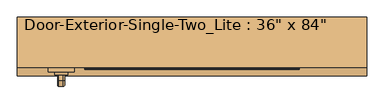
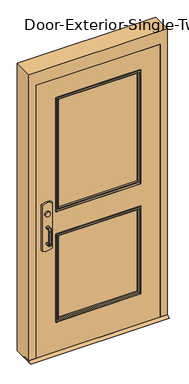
"""IFC4 building model written with IfcOpenShell, lengths in millimetres: door geometry."""

from ifc_helpers import new_model, si_unit, point, frame, frame_2d, origin, place, context, project, spatial, polyline, circle_curve, ellipse_curve, trimmed, segment, composite_curve, outline, extrude, faceted_brep, source, transform, mapped, element, save
from ifc_brep_helpers import plane_surface, cylinder_surface, revolved_surface, advanced_brep


def door_071b1b46(model_context):
    return source(origin(), model_context, "Body", "SolidModel", [
        extrude(outline(polyline([(-28.575, 12.7), (-3.175, 0.0), (-98.425, 0.0), (-73.025, 12.7), (-28.575, 12.7)])), frame((-508.0, 0.0, 0.0), z_axis=(1.0, 0.0, 0.0), x_axis=(0.0, 1.0, 0.0)), (0.0, 0.0, 1.0), 1016.0),
        extrude(outline(polyline([(150.2833333, 9.525), (150.2833333, 3.175), (-349.25, 3.175), (-349.25, 9.525), (150.2833333, 9.525)])), frame((0.0, 0.0, 990.6), z_axis=(0.0, 0.0, 1.0), x_axis=(1.0, 0.0, 0.0)), (0.0, 0.0, 1.0), 50.8),
        advanced_brep(
        [(-412.75, 3.175, 1041.4), (-349.25, 3.175, 1041.4), (400.05, 3.175, 1041.4), (400.05, 3.175, 990.6), (-349.25, 3.175, 990.6), (-412.75, 3.175, 990.6), (400.05, -28.575, 1041.4), (-349.25, -28.575, 1041.4), (-349.25, -28.575, 1104.9), (-368.3, -28.575, 1123.95), (-393.7, -28.575, 1123.95), (-412.75, -28.575, 1104.9), (-412.75, -28.575, 927.1), (-393.7, -28.575, 908.05), (-368.3, -28.575, 908.05), (-349.25, -28.575, 927.1), (-349.25, -28.575, 990.6), (400.05, -28.575, 990.6), (-412.75, -0.0002467, 1041.4), (-349.25, -0.0002467, 1041.4), (-412.75, -0.0002467, 990.6), (-412.75, -5.0104269, 927.1), (-412.75, -5.0104269, 1104.9), (-349.25, -0.0002467, 990.6), (-349.25, -5.0104269, 1104.9), (-349.25, -5.0104269, 927.1), (-368.3, -6.513481, 1123.95), (-393.7, -6.513481, 1123.95), (-393.7, -6.513481, 908.05), (-368.3, -6.513481, 908.05)],
        [
            (0, 1),
            (1, 2),
            (2, 3),
            (3, 4),
            (4, 5),
            (5, 0),
            (6, 7),
            (7, 8),
            (8, 9, circle_curve(frame((-368.3, -28.575, 1104.9), z_axis=(0.0, -1.0, 0.0), x_axis=(1.0, 0.0, 0.0)), 19.05)),
            (9, 10),
            (10, 11, circle_curve(frame((-393.7, -28.575, 1104.9), z_axis=(0.0, -1.0, 0.0), x_axis=(1.0, 0.0, 0.0)), 19.05)),
            (11, 12),
            (12, 13, circle_curve(frame((-393.7, -28.575, 927.1), z_axis=(0.0, -1.0, 0.0), x_axis=(1.0, 0.0, 0.0)), 19.05)),
            (13, 14),
            (14, 15, circle_curve(frame((-368.3, -28.575, 927.1), z_axis=(0.0, -1.0, 0.0), x_axis=(1.0, 0.0, 0.0)), 19.05)),
            (15, 16),
            (16, 17),
            (17, 6),
            (0, 18),
            (18, 19),
            (19, 7),
            (6, 2),
            (5, 20),
            (20, 21),
            (21, 12),
            (11, 22),
            (22, 18),
            (16, 23),
            (23, 20),
            (3, 17),
            (19, 24),
            (24, 8),
            (15, 25),
            (25, 23),
            (9, 26),
            (26, 27),
            (27, 10),
            (13, 28),
            (28, 29),
            (29, 14),
            (29, 25, ellipse_curve(frame((-368.3, -5.0104269, 927.1), z_axis=(0.0, -0.9969018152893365, 0.07865602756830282), x_axis=(0.0, 0.07865602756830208, 0.9969018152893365)), 19.1092038, 19.05)),
            (24, 26, ellipse_curve(frame((-368.3, -5.0104269, 1104.9), z_axis=(0.0, -0.9969018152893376, -0.07865602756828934), x_axis=(0.0, 0.078656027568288, -0.9969018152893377)), 19.1092038, 19.05)),
            (27, 22, ellipse_curve(frame((-393.7, -5.0104269, 1104.9), z_axis=(0.0, -0.9969018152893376, -0.07865602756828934), x_axis=(0.0, 0.078656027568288, -0.9969018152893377)), 19.1092038, 19.05)),
            (21, 28, ellipse_curve(frame((-393.7, -5.0104269, 927.1), z_axis=(0.0, -0.9969018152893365, 0.07865602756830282), x_axis=(0.0, 0.07865602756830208, 0.9969018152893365)), 19.1092038, 19.05)),
        ],
        [
            plane_surface(frame((-412.75, 3.175, 1041.4), z_axis=(0.0, 1.0, 0.0), x_axis=(-1.0, 0.0, 0.0))),
            plane_surface(frame((-412.75, -28.575, 1041.4), z_axis=(0.0, -1.0, 0.0), x_axis=(1.0, 0.0, 0.0))),
            plane_surface(frame((400.05, 3.175, 1041.4), z_axis=(0.0, 0.0, 1.0), x_axis=(0.0, -1.0, 0.0))),
            plane_surface(frame((-412.75, 3.175, 1041.4), z_axis=(-1.0, 0.0, 0.0), x_axis=(0.0, -1.0, 0.0))),
            plane_surface(frame((-412.75, 3.175, 990.6), z_axis=(0.0, 0.0, -1.0), x_axis=(0.0, -1.0, 0.0))),
            plane_surface(frame((400.05, 3.175, 990.6), z_axis=(1.0, 0.0, 0.0), x_axis=(0.0, -1.0, 0.0))),
            plane_surface(frame((-349.25, -0.0002467, 927.1), z_axis=(1.0, 0.0, 0.0), x_axis=(0.0, -1.0, 0.0))),
            plane_surface(frame((-368.3, -0.0002467, 1123.95), z_axis=(0.0, 0.0, 1.0), x_axis=(0.0, -1.0, 0.0))),
            plane_surface(frame((-393.7, -0.0002467, 908.05), z_axis=(0.0, 0.0, -1.0), x_axis=(0.0, -1.0, 0.0))),
            cylinder_surface(frame((-368.3, -28.575, 927.1), z_axis=(0.0, 1.0, 0.0), x_axis=(1.0, 0.0, 0.0)), 19.05),
            cylinder_surface(frame((-368.3, -28.575, 1104.9), z_axis=(0.0, 1.0, 0.0), x_axis=(1.0, 0.0, 0.0)), 19.05),
            cylinder_surface(frame((-393.7, -28.575, 1104.9), z_axis=(0.0, 1.0, 0.0), x_axis=(1.0, 0.0, 0.0)), 19.05),
            cylinder_surface(frame((-393.7, -28.575, 927.1), z_axis=(0.0, 1.0, 0.0), x_axis=(1.0, 0.0, 0.0)), 19.05),
            plane_surface(frame((-349.25, -0.0002467, 1041.4), z_axis=(0.0, 0.9969018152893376, 0.07865602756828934), x_axis=(-1.0, 0.0, 0.0))),
            plane_surface(frame((-349.25, -6.513481, 908.05), z_axis=(0.0, 0.9969018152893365, -0.07865602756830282), x_axis=(-1.0, 0.0, 0.0))),
        ],
        [
            (0, [[1, 2, 3, 4, 5, 6]]),
            (1, [[7, 8, 9, 10, 11, 12, 13, 14, 15, 16, 17, 18]]),
            (2, [[-2, -1, 19, 20, 21, -7, 22]]),
            (3, [[23, 24, 25, -12, 26, 27, -19, -6]]),
            (4, [[-17, 28, 29, -23, -5, -4, 30]]),
            (5, [[-22, -18, -30, -3]]),
            (6, [[-21, 31, 32, -8]]),
            (6, [[33, 34, -28, -16]]),
            (7, [[35, 36, 37, -10]]),
            (8, [[38, 39, 40, -14]]),
            (9, [[-40, 41, -33, -15]]),
            (10, [[-32, 42, -35, -9]]),
            (11, [[-37, 43, -26, -11]]),
            (12, [[-25, 44, -38, -13]]),
            (13, [[-27, -43, -36, -42, -31, -20]]),
            (14, [[-29, -34, -41, -39, -44, -24]]),
        ],
    ),
        advanced_brep(
        [(-391.0, -85.725, 1017.190625), (-387.428125, -85.725, 1020.7625), (-374.571875, -85.725, 1020.7625), (-371.0, -85.725, 1017.190625), (-371.0, -85.725, 1014.8090406), (-374.5715406, -85.725, 1011.2375), (-387.428125, -85.725, 1011.2375), (-391.0, -85.725, 1014.809375), (-391.0, -85.725, 887.809375), (-391.0, -85.725, 890.190625), (-387.428125, -85.725, 893.7625), (-374.5715406, -85.725, 893.7625), (-371.0, -85.725, 890.1909594), (-371.0, -85.725, 887.809375), (-374.571875, -85.725, 884.2375), (-387.428125, -85.725, 884.2375), (-391.0, -111.125, 1014.809375), (-391.0, -122.634375, 1003.3), (-391.0, -122.634375, 901.7), (-391.0, -111.125, 890.190625), (-391.0, -111.125, 887.809375), (-391.0, -125.015625, 901.7), (-391.0, -125.015625, 1003.3), (-391.0, -111.125, 1017.190625), (-387.428125, -111.125, 1011.2375), (-374.5715406, -111.125, 1011.2375), (-371.0, -111.125, 1014.8090406), (-371.0, -111.125, 1017.190625), (-371.0, -125.015625, 1003.3), (-371.0, -125.015625, 901.7), (-371.0, -111.125, 887.809375), (-371.0, -111.125, 890.1909594), (-371.0, -122.6340406, 901.7), (-371.0, -122.6340406, 1003.3), (-374.571875, -111.125, 1020.7625), (-387.428125, -111.125, 1020.7625), (-387.428125, -119.0625, 1003.3), (-374.5715406, -119.0625, 1003.3), (-374.571875, -128.5875, 1003.3), (-387.428125, -128.5875, 1003.3), (-387.428125, -119.0625, 901.7), (-374.5715406, -119.0625, 901.7), (-374.571875, -128.5875, 901.7), (-387.428125, -128.5875, 901.7), (-387.428125, -111.125, 893.7625), (-374.5715406, -111.125, 893.7625), (-374.571875, -111.125, 884.2375), (-387.428125, -111.125, 884.2375)],
        [
            (0, 1, circle_curve(frame((-387.428125, -85.725, 1017.190625), z_axis=(0.0, 1.0, 0.0), x_axis=(0.0, 0.0, 1.0)), 3.571875)),
            (1, 2),
            (2, 3, circle_curve(frame((-374.571875, -85.725, 1017.190625), z_axis=(0.0, 1.0, 0.0), x_axis=(0.0, 0.0, 1.0)), 3.571875)),
            (3, 4),
            (4, 5, circle_curve(frame((-374.5715406, -85.725, 1014.8090406), z_axis=(0.0, 1.0, 0.0), x_axis=(0.0, 0.0, 1.0)), 3.5715406)),
            (5, 6),
            (6, 7, circle_curve(frame((-387.428125, -85.725, 1014.809375), z_axis=(0.0, 1.0, 0.0), x_axis=(0.0, 0.0, 1.0)), 3.571875)),
            (7, 0),
            (8, 9),
            (9, 10, circle_curve(frame((-387.428125, -85.725, 890.190625), z_axis=(0.0, 1.0, 0.0), x_axis=(0.0, 0.0, -1.0)), 3.571875)),
            (10, 11),
            (11, 12, circle_curve(frame((-374.5715406, -85.725, 890.1909594), z_axis=(0.0, 1.0, 0.0), x_axis=(0.0, 0.0, -1.0)), 3.5715406)),
            (12, 13),
            (13, 14, circle_curve(frame((-374.571875, -85.725, 887.809375), z_axis=(0.0, 1.0, 0.0), x_axis=(0.0, 0.0, -1.0)), 3.571875)),
            (14, 15),
            (15, 8, circle_curve(frame((-387.428125, -85.725, 887.809375), z_axis=(0.0, 1.0, 0.0), x_axis=(0.0, 0.0, -1.0)), 3.571875)),
            (7, 16),
            (16, 17, circle_curve(frame((-391.0, -111.125, 1003.3), z_axis=(1.0, 0.0, 0.0), x_axis=(0.0, 0.0, 1.0)), 11.509375)),
            (17, 18),
            (18, 19, circle_curve(frame((-391.0, -111.125, 901.7), z_axis=(1.0, 0.0, 0.0), x_axis=(0.0, -1.0, 0.0)), 11.509375)),
            (19, 9),
            (8, 20),
            (20, 21, circle_curve(frame((-391.0, -111.125, 901.7), z_axis=(-1.0, 0.0, 0.0), x_axis=(0.0, -1.0, 0.0)), 13.890625)),
            (21, 22),
            (22, 23, circle_curve(frame((-391.0, -111.125, 1003.3), z_axis=(-1.0, 0.0, 0.0), x_axis=(0.0, 0.0, 1.0)), 13.890625)),
            (23, 0),
            (6, 24),
            (24, 16, circle_curve(frame((-387.428125, -111.125, 1014.809375), z_axis=(0.0, 1.0, 0.0), x_axis=(0.0, 0.0, 1.0)), 3.571875)),
            (5, 25),
            (25, 24),
            (4, 26),
            (26, 25, circle_curve(frame((-374.5715406, -111.125, 1014.8090406), z_axis=(0.0, 1.0, 0.0), x_axis=(0.0, 0.0, 1.0)), 3.5715406)),
            (3, 27),
            (27, 28, circle_curve(frame((-371.0, -111.125, 1003.3), z_axis=(1.0, 0.0, 0.0), x_axis=(0.0, 0.0, 1.0)), 13.890625)),
            (28, 29),
            (29, 30, circle_curve(frame((-371.0, -111.125, 901.7), z_axis=(1.0, 0.0, 0.0), x_axis=(0.0, -1.0, 0.0)), 13.890625)),
            (30, 13),
            (12, 31),
            (31, 32, circle_curve(frame((-371.0, -111.125, 901.7), z_axis=(-1.0, 0.0, 0.0), x_axis=(0.0, -1.0, 0.0)), 11.5090406)),
            (32, 33),
            (33, 26, circle_curve(frame((-371.0, -111.125, 1003.3), z_axis=(-1.0, 0.0, 0.0), x_axis=(0.0, 0.0, 1.0)), 11.5090406)),
            (2, 34),
            (34, 27, circle_curve(frame((-374.571875, -111.125, 1017.190625), z_axis=(0.0, 1.0, 0.0), x_axis=(0.0, 0.0, 1.0)), 3.571875)),
            (1, 35),
            (35, 34),
            (23, 35, circle_curve(frame((-387.428125, -111.125, 1017.190625), z_axis=(0.0, 1.0, 0.0), x_axis=(0.0, 0.0, 1.0)), 3.571875)),
            (36, 17, circle_curve(frame((-387.428125, -122.634375, 1003.3), z_axis=(0.0, 0.0, 1.0), x_axis=(0.0, -1.0, 0.0)), 3.571875)),
            (24, 36, circle_curve(frame((-387.428125, -111.125, 1003.3), z_axis=(1.0, 0.0, 0.0), x_axis=(0.0, 0.0, 1.0)), 7.9375)),
            (37, 36),
            (25, 37, circle_curve(frame((-374.5715406, -111.125, 1003.3), z_axis=(1.0, 0.0, 0.0), x_axis=(0.0, 0.0, 1.0)), 7.9375)),
            (33, 37, circle_curve(frame((-374.5715406, -122.6340406, 1003.3), z_axis=(0.0, 0.0, 1.0), x_axis=(0.0, -1.0, 0.0)), 3.5715406)),
            (38, 28, circle_curve(frame((-374.571875, -125.015625, 1003.3), z_axis=(0.0, 0.0, 1.0), x_axis=(0.0, -1.0, 0.0)), 3.571875)),
            (34, 38, circle_curve(frame((-374.571875, -111.125, 1003.3), z_axis=(1.0, 0.0, 0.0), x_axis=(0.0, 0.0, 1.0)), 17.4625)),
            (39, 38),
            (35, 39, circle_curve(frame((-387.428125, -111.125, 1003.3), z_axis=(1.0, 0.0, 0.0), x_axis=(0.0, 0.0, 1.0)), 17.4625)),
            (22, 39, circle_curve(frame((-387.428125, -125.015625, 1003.3), z_axis=(0.0, 0.0, 1.0), x_axis=(0.0, -1.0, 0.0)), 3.571875)),
            (36, 40),
            (40, 18, circle_curve(frame((-387.428125, -122.634375, 901.7), z_axis=(0.0, 0.0, 1.0), x_axis=(0.0, -1.0, 0.0)), 3.571875)),
            (37, 41),
            (41, 40),
            (32, 41, circle_curve(frame((-374.5715406, -122.6340406, 901.7), z_axis=(0.0, 0.0, 1.0), x_axis=(0.0, -1.0, 0.0)), 3.5715406)),
            (38, 42),
            (42, 29, circle_curve(frame((-374.571875, -125.015625, 901.7), z_axis=(0.0, 0.0, 1.0), x_axis=(0.0, -1.0, 0.0)), 3.571875)),
            (39, 43),
            (43, 42),
            (21, 43, circle_curve(frame((-387.428125, -125.015625, 901.7), z_axis=(0.0, 0.0, 1.0), x_axis=(0.0, -1.0, 0.0)), 3.571875)),
            (44, 19, circle_curve(frame((-387.428125, -111.125, 890.190625), z_axis=(0.0, -1.0, 0.0), x_axis=(0.0, 0.0, -1.0)), 3.571875)),
            (40, 44, circle_curve(frame((-387.428125, -111.125, 901.7), z_axis=(1.0, 0.0, 0.0), x_axis=(0.0, -1.0, 0.0)), 7.9375)),
            (45, 44),
            (41, 45, circle_curve(frame((-374.5715406, -111.125, 901.7), z_axis=(1.0, 0.0, 0.0), x_axis=(0.0, -1.0, 0.0)), 7.9375)),
            (31, 45, circle_curve(frame((-374.5715406, -111.125, 890.1909594), z_axis=(0.0, -1.0, 0.0), x_axis=(0.0, 0.0, -1.0)), 3.5715406)),
            (46, 30, circle_curve(frame((-374.571875, -111.125, 887.809375), z_axis=(0.0, -1.0, 0.0), x_axis=(0.0, 0.0, -1.0)), 3.571875)),
            (42, 46, circle_curve(frame((-374.571875, -111.125, 901.7), z_axis=(1.0, 0.0, 0.0), x_axis=(0.0, -1.0, 0.0)), 17.4625)),
            (47, 46),
            (43, 47, circle_curve(frame((-387.428125, -111.125, 901.7), z_axis=(1.0, 0.0, 0.0), x_axis=(0.0, -1.0, 0.0)), 17.4625)),
            (20, 47, circle_curve(frame((-387.428125, -111.125, 887.809375), z_axis=(0.0, -1.0, 0.0), x_axis=(0.0, 0.0, -1.0)), 3.571875)),
            (44, 10),
            (45, 11),
            (46, 14),
            (47, 15),
        ],
        [
            plane_surface(frame((-381.0, -85.725, 1016.0), z_axis=(0.0, 1.0, 0.0), x_axis=(1.0, 0.0, 0.0))),
            plane_surface(frame((-381.0, -85.725, 889.0), z_axis=(0.0, 1.0, 0.0), x_axis=(1.0, 0.0, 0.0))),
            plane_surface(frame((-391.0, -85.725, 1017.190625), z_axis=(-1.0, 0.0, 0.0), x_axis=(0.0, -1.0, 0.0))),
            cylinder_surface(frame((-387.428125, -85.725, 1014.809375), z_axis=(0.0, 1.0, 0.0), x_axis=(0.0, 0.0, 1.0)), 3.571875),
            plane_surface(frame((-387.428125, -85.725, 1011.2375), z_axis=(0.0, 0.0, -1.0), x_axis=(0.0, -1.0, 0.0))),
            cylinder_surface(frame((-374.5715406, -85.725, 1014.8090406), z_axis=(0.0, 1.0, 0.0), x_axis=(0.0, 0.0, 1.0)), 3.5715406),
            plane_surface(frame((-371.0, -85.725, 1014.8090406), z_axis=(1.0, 0.0, 0.0), x_axis=(0.0, -1.0, 0.0))),
            cylinder_surface(frame((-374.571875, -85.725, 1017.190625), z_axis=(0.0, 1.0, 0.0), x_axis=(0.0, 0.0, 1.0)), 3.571875),
            plane_surface(frame((-374.571875, -85.725, 1020.7625), z_axis=(0.0, 0.0, 1.0), x_axis=(0.0, -1.0, 0.0))),
            cylinder_surface(frame((-387.428125, -85.725, 1017.190625), z_axis=(0.0, 1.0, 0.0), x_axis=(0.0, 0.0, 1.0)), 3.571875),
            revolved_surface(trimmed(ellipse_curve(frame((-387.428125, -111.125, 1014.809375), z_axis=(0.0, -1.0, 0.0), x_axis=(0.0, 0.0, 1.0)), 3.571875, 3.571875), [point((-391.0, -111.125, 1014.809375))], [point((-387.428125, -111.125, 1011.2375))], True, "CARTESIAN"), (-381.0, -111.125, 1003.3), (-1.0, 0.0, 0.0)),
            revolved_surface(polyline([(-387.428125, -111.125, 1011.2375), (-374.5715406, -111.125, 1011.2375)]), (-381.0, -111.125, 1003.3), (-1.0, 0.0, 0.0)),
            revolved_surface(trimmed(ellipse_curve(frame((-374.5715406, -111.125, 1014.8090406), z_axis=(0.0, -1.0, 0.0), x_axis=(0.0, 0.0, 1.0)), 3.5715406, 3.5715406), [point((-374.5715406, -111.125, 1011.2375))], [point((-371.0, -111.125, 1014.8090406))], True, "CARTESIAN"), (-381.0, -111.125, 1003.3), (-1.0, 0.0, 0.0)),
            revolved_surface(trimmed(ellipse_curve(frame((-374.571875, -111.125, 1017.190625), z_axis=(0.0, -1.0, 0.0), x_axis=(0.0, 0.0, 1.0)), 3.571875, 3.571875), [point((-371.0, -111.125, 1017.190625))], [point((-374.571875, -111.125, 1020.7625))], True, "CARTESIAN"), (-381.0, -111.125, 1003.3), (-1.0, 0.0, 0.0)),
            cylinder_surface(frame((-381.0, -111.125, 1003.3), z_axis=(-1.0, 0.0, 0.0), x_axis=(0.0, 0.0, 1.0)), 17.4625),
            revolved_surface(trimmed(ellipse_curve(frame((-387.428125, -111.125, 1017.190625), z_axis=(0.0, -1.0, 0.0), x_axis=(0.0, 0.0, 1.0)), 3.571875, 3.571875), [point((-387.428125, -111.125, 1020.7625))], [point((-391.0, -111.125, 1017.190625))], True, "CARTESIAN"), (-381.0, -111.125, 1003.3), (-1.0, 0.0, 0.0)),
            cylinder_surface(frame((-387.428125, -122.634375, 1003.3), z_axis=(0.0, 0.0, 1.0), x_axis=(0.0, -1.0, 0.0)), 3.571875),
            plane_surface(frame((-387.428125, -119.0625, 1003.3), z_axis=(0.0, 1.0, 0.0), x_axis=(0.0, 0.0, -1.0))),
            cylinder_surface(frame((-374.5715406, -122.6340406, 1003.3), z_axis=(0.0, 0.0, 1.0), x_axis=(0.0, -1.0, 0.0)), 3.5715406),
            cylinder_surface(frame((-374.571875, -125.015625, 1003.3), z_axis=(0.0, 0.0, 1.0), x_axis=(0.0, -1.0, 0.0)), 3.571875),
            plane_surface(frame((-374.571875, -128.5875, 1003.3), z_axis=(0.0, -1.0, 0.0), x_axis=(0.0, 0.0, -1.0))),
            cylinder_surface(frame((-387.428125, -125.015625, 1003.3), z_axis=(0.0, 0.0, 1.0), x_axis=(0.0, -1.0, 0.0)), 3.571875),
            revolved_surface(trimmed(ellipse_curve(frame((-387.428125, -122.634375, 901.7), z_axis=(0.0, 0.0, -1.0), x_axis=(0.0, -1.0, 0.0)), 3.571875, 3.571875), [point((-391.0, -122.634375, 901.7))], [point((-387.428125, -119.0625, 901.7))], True, "CARTESIAN"), (-381.0, -111.125, 901.7), (-1.0, 0.0, 0.0)),
            revolved_surface(polyline([(-387.428125, -119.0625, 901.7), (-374.5715406, -119.0625, 901.7)]), (-381.0, -111.125, 901.7), (-1.0, 0.0, 0.0)),
            revolved_surface(trimmed(ellipse_curve(frame((-374.5715406, -122.6340406, 901.7), z_axis=(0.0, 0.0, -1.0), x_axis=(0.0, -1.0, 0.0)), 3.5715406, 3.5715406), [point((-374.5715406, -119.0625, 901.7))], [point((-371.0, -122.6340406, 901.7))], True, "CARTESIAN"), (-381.0, -111.125, 901.7), (-1.0, 0.0, 0.0)),
            revolved_surface(trimmed(ellipse_curve(frame((-374.571875, -125.015625, 901.7), z_axis=(0.0, 0.0, -1.0), x_axis=(0.0, -1.0, 0.0)), 3.571875, 3.571875), [point((-371.0, -125.015625, 901.7))], [point((-374.571875, -128.5875, 901.7))], True, "CARTESIAN"), (-381.0, -111.125, 901.7), (-1.0, 0.0, 0.0)),
            cylinder_surface(frame((-381.0, -111.125, 901.7), z_axis=(-1.0, 0.0, 0.0), x_axis=(0.0, -1.0, 0.0)), 17.4625),
            revolved_surface(trimmed(ellipse_curve(frame((-387.428125, -125.015625, 901.7), z_axis=(0.0, 0.0, -1.0), x_axis=(0.0, -1.0, 0.0)), 3.571875, 3.571875), [point((-387.428125, -128.5875, 901.7))], [point((-391.0, -125.015625, 901.7))], True, "CARTESIAN"), (-381.0, -111.125, 901.7), (-1.0, 0.0, 0.0)),
            cylinder_surface(frame((-387.428125, -111.125, 890.190625), z_axis=(0.0, -1.0, 0.0), x_axis=(0.0, 0.0, -1.0)), 3.571875),
            plane_surface(frame((-387.428125, -111.125, 893.7625), z_axis=(0.0, 0.0, 1.0), x_axis=(0.0, 1.0, 0.0))),
            cylinder_surface(frame((-374.5715406, -111.125, 890.1909594), z_axis=(0.0, -1.0, 0.0), x_axis=(0.0, 0.0, -1.0)), 3.5715406),
            cylinder_surface(frame((-374.571875, -111.125, 887.809375), z_axis=(0.0, -1.0, 0.0), x_axis=(0.0, 0.0, -1.0)), 3.571875),
            plane_surface(frame((-374.571875, -111.125, 884.2375), z_axis=(0.0, 0.0, -1.0), x_axis=(0.0, 1.0, 0.0))),
            cylinder_surface(frame((-387.428125, -111.125, 887.809375), z_axis=(0.0, -1.0, 0.0), x_axis=(0.0, 0.0, -1.0)), 3.571875),
        ],
        [
            (0, [[1, 2, 3, 4, 5, 6, 7, 8]]),
            (1, [[9, 10, 11, 12, 13, 14, 15, 16]]),
            (2, [[17, 18, 19, 20, 21, -9, 22, 23, 24, 25, 26, -8]]),
            (3, [[27, 28, -17, -7]]),
            (4, [[29, 30, -27, -6]]),
            (5, [[31, 32, -29, -5]]),
            (6, [[33, 34, 35, 36, 37, -13, 38, 39, 40, 41, -31, -4]]),
            (7, [[42, 43, -33, -3]]),
            (8, [[44, 45, -42, -2]]),
            (9, [[-26, 46, -44, -1]]),
            (10, [[47, -18, -28, 48]]),
            (11, [[49, -48, -30, 50]]),
            (12, [[51, -50, -32, -41]]),
            (13, [[52, -34, -43, 53]]),
            (14, [[54, -53, -45, 55]]),
            (15, [[56, -55, -46, -25]]),
            (16, [[57, 58, -19, -47]]),
            (17, [[59, 60, -57, -49]]),
            (18, [[-40, 61, -59, -51]]),
            (19, [[62, 63, -35, -52]]),
            (20, [[64, 65, -62, -54]]),
            (21, [[-24, 66, -64, -56]]),
            (22, [[67, -20, -58, 68]]),
            (23, [[69, -68, -60, 70]]),
            (24, [[71, -70, -61, -39]]),
            (25, [[72, -36, -63, 73]]),
            (26, [[74, -73, -65, 75]]),
            (27, [[76, -75, -66, -23]]),
            (28, [[77, -10, -21, -67]]),
            (29, [[78, -11, -77, -69]]),
            (30, [[-38, -12, -78, -71]]),
            (31, [[79, -14, -37, -72]]),
            (32, [[80, -15, -79, -74]]),
            (33, [[-22, -16, -80, -76]]),
        ],
    ),
        extrude(outline(composite_curve([segment(trimmed(circle_curve(frame_2d((1117.6, -381.0)), 19.0), [point((1117.6, -400.0))], [point((1117.6, -362.0))], False, "CARTESIAN"), True, "CONTINUOUS"), segment(trimmed(circle_curve(frame_2d((1117.6, -381.0)), 19.0), [point((1117.6, -362.0))], [point((1117.6, -400.0))], False, "CARTESIAN"), True, "CONTINUOUS")], self_intersect=False)), frame((0.0, -94.45625, 0.0), z_axis=(0.0, 1.0, 0.0), x_axis=(0.0, 0.0, 1.0)), (0.0, 0.0, 1.0), 8.73125),
        extrude(outline(composite_curve([segment(trimmed(circle_curve(frame_2d((1113.0338574, -381.0)), 89.3016225), [point((1193.8, -342.9))], [point((1193.8, -419.1))], False, "CARTESIAN"), True, "CONTINUOUS"), segment(polyline([(1193.8, -419.1), (838.2, -419.1)]), True, "CONTINUOUS"), segment(trimmed(circle_curve(frame_2d((918.9661426, -381.0)), 89.3016225), [point((838.2, -419.1))], [point((838.2, -342.9))], False, "CARTESIAN"), True, "CONTINUOUS"), segment(polyline([(838.2, -342.9), (1193.8, -342.9)]), True, "CONTINUOUS")], self_intersect=False)), frame((0.0, -85.725, 0.0), z_axis=(0.0, 1.0, 0.0), x_axis=(0.0, 0.0, 1.0)), (0.0, 0.0, 1.0), 12.7),
        faceted_brep([(457.2, -23.8125, 0.0), (441.325, -23.8125, 0.0), (441.325, 23.8125, 0.0), (457.2, 23.8125, 0.0), (457.2, 73.025, 0.0), (508.0, 73.025, 0.0), (508.0, -73.025, 0.0), (457.2, -73.025, 0.0), (457.2, -73.025, 2133.6), (457.2, -23.8125, 2133.6), (508.0, -73.025, 2235.2), (-508.0, -73.025, 2235.2), (-508.0, -73.025, 0.0), (-457.2, -73.025, 0.0), (-457.2, -73.025, 2133.6), (508.0, 73.025, 2235.2), (457.2, 73.025, 2133.6), (-457.2, 73.025, 2133.6), (-457.2, 73.025, 0.0), (-508.0, 73.025, 0.0), (-508.0, 73.025, 2235.2), (457.2, 23.8125, 2133.6), (441.325, 23.8125, 2117.725), (-441.325, 23.8125, 2117.725), (-441.325, 23.8125, 0.0), (-457.2, 23.8125, 0.0), (-457.2, 23.8125, 2133.6), (441.325, -23.8125, 2117.725), (-457.2, -23.8125, 2133.6), (-457.2, -23.8125, 0.0), (-441.325, -23.8125, 0.0), (-441.325, -23.8125, 2117.725)], [[[0, 1, 2, 3, 4, 5, 6, 7]], [[7, 8, 9, 0]], [[6, 10, 11, 12, 13, 14, 8, 7]], [[5, 15, 10, 6]], [[4, 16, 17, 18, 19, 20, 15, 5]], [[3, 21, 16, 4]], [[2, 22, 23, 24, 25, 26, 21, 3]], [[1, 27, 22, 2]], [[0, 9, 28, 29, 30, 31, 27, 1]], [[8, 14, 28, 9]], [[16, 21, 26, 17]], [[22, 27, 31, 23]], [[12, 19, 18, 25, 24, 30, 29, 13]], [[13, 29, 28, 14]], [[11, 20, 19, 12]], [[17, 26, 25, 18]], [[23, 31, 30, 24]], [[15, 20, 11, 10]]]),
        extrude(outline(polyline([(2133.6, -457.2), (12.7, -457.2), (12.7, 457.2), (2133.6, 457.2), (2133.6, -457.2)]), holes=[polyline([(1981.2, -304.8), (1981.2, 304.8), (1111.25, 304.8), (1111.25, -304.8), (1981.2, -304.8)]), polyline([(920.75, -304.8), (920.75, 304.8), (254.0, 304.8), (254.0, -304.8), (920.75, -304.8)])]), frame((0.0, -73.025, 0.0), z_axis=(0.0, 1.0, 0.0), x_axis=(0.0, 0.0, 1.0)), (0.0, 0.0, 1.0), 44.45),
        extrude(outline(polyline([(304.8, -41.275), (304.8, -60.325), (-304.8, -60.325), (-304.8, -41.275), (304.8, -41.275)])), frame((0.0, 0.0, 1111.25), z_axis=(0.0, 0.0, 1.0), x_axis=(1.0, 0.0, 0.0)), (0.0, 0.0, 1.0), 869.95),
        extrude(outline(polyline([(304.8, -41.275), (304.8, -60.325), (-304.8, -60.325), (-304.8, -41.275), (304.8, -41.275)])), frame((0.0, 0.0, 254.0), z_axis=(0.0, 0.0, 1.0), x_axis=(1.0, 0.0, 0.0)), (0.0, 0.0, 1.0), 666.75),
        advanced_brep(
        [(304.8, -41.275, 920.75), (304.8, -41.275, 254.0), (304.8, -28.575, 254.0), (304.8, -28.575, 920.75), (292.8, -27.575, 908.75), (292.8, -27.575, 266.0), (292.8, -41.275, 266.0), (292.8, -41.275, 908.75), (297.8, -22.575, 913.75), (297.8, -22.575, 261.0), (312.8, -24.575, 928.75), (312.8, -24.575, 246.0), (310.8, -22.575, 248.0), (310.8, -22.575, 926.75), (312.8, -28.575, 928.75), (312.8, -28.575, 246.0), (-304.8, -41.275, 254.0), (-304.8, -28.575, 254.0), (-292.8, -27.575, 266.0), (-292.8, -41.275, 266.0), (-297.8, -22.575, 261.0), (-312.8, -24.575, 246.0), (-310.8, -22.575, 248.0), (-312.8, -28.575, 246.0), (-304.8, -41.275, 920.75), (-304.8, -28.575, 920.75), (-292.8, -27.575, 908.75), (-292.8, -41.275, 908.75), (-297.8, -22.575, 913.75), (-312.8, -24.575, 928.75), (-310.8, -22.575, 926.75), (-312.8, -28.575, 928.75)],
        [
            (0, 1),
            (1, 2),
            (2, 3),
            (3, 0),
            (4, 5),
            (5, 6),
            (6, 7),
            (7, 4),
            (8, 9),
            (9, 5, ellipse_curve(frame((297.8, -27.575, 261.0), z_axis=(0.7071067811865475, 0.0, 0.7071067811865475), x_axis=(-0.7071067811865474, 0.0, 0.7071067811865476)), 7.0710678, 5.0)),
            (4, 8, ellipse_curve(frame((297.8, -27.575, 913.75), z_axis=(0.7071067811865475, 0.0, -0.7071067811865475), x_axis=(0.7071067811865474, 0.0, 0.7071067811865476)), 7.0710678, 5.0)),
            (10, 11),
            (11, 12, ellipse_curve(frame((310.8, -24.575, 248.0), z_axis=(0.7071067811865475, 0.0, 0.7071067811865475), x_axis=(-0.7071067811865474, 0.0, 0.7071067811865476)), 2.8284271, 2.0)),
            (12, 13),
            (13, 10, ellipse_curve(frame((310.8, -24.575, 926.75), z_axis=(0.7071067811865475, 0.0, -0.7071067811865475), x_axis=(0.7071067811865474, 0.0, 0.7071067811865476)), 2.8284271, 2.0)),
            (14, 15),
            (15, 11),
            (10, 14),
            (1, 16),
            (16, 17),
            (17, 2),
            (5, 18),
            (18, 19),
            (19, 6),
            (9, 20),
            (20, 18, ellipse_curve(frame((-297.8, -27.575, 261.0), z_axis=(0.7071067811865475, 0.0, -0.7071067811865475), x_axis=(0.7071067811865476, 0.0, 0.7071067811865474)), 7.0710678, 5.0)),
            (11, 21),
            (21, 22, ellipse_curve(frame((-310.8, -24.575, 248.0), z_axis=(0.7071067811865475, 0.0, -0.7071067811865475), x_axis=(0.7071067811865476, 0.0, 0.7071067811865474)), 2.8284271, 2.0)),
            (22, 12),
            (15, 23),
            (23, 21),
            (16, 24),
            (24, 25),
            (25, 17),
            (18, 26),
            (26, 27),
            (27, 19),
            (20, 28),
            (28, 26, ellipse_curve(frame((-297.8, -27.575, 913.75), z_axis=(-0.7071067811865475, 0.0, -0.7071067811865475), x_axis=(0.7071067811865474, 0.0, -0.7071067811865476)), 7.0710678, 5.0)),
            (21, 29),
            (29, 30, ellipse_curve(frame((-310.8, -24.575, 926.75), z_axis=(-0.7071067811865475, 0.0, -0.7071067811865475), x_axis=(0.7071067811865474, 0.0, -0.7071067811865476)), 2.8284271, 2.0)),
            (30, 22),
            (23, 31),
            (31, 29),
            (14, 31),
            (25, 3),
            (24, 0),
            (27, 7),
            (26, 4),
            (28, 8),
            (30, 13),
            (29, 10),
        ],
        [
            plane_surface(frame((304.8, -28.575, 920.75), z_axis=(1.0, 0.0, 0.0), x_axis=(0.0, 0.0, -1.0))),
            plane_surface(frame((292.8, -41.275, 908.75), z_axis=(-1.0, 0.0, 0.0), x_axis=(0.0, 0.0, -1.0))),
            cylinder_surface(frame((297.8, -27.575, 920.75), z_axis=(0.0, 0.0, 1.0), x_axis=(1.0, 0.0, 0.0)), 5.0),
            cylinder_surface(frame((310.8, -24.575, 920.75), z_axis=(0.0, 0.0, 1.0), x_axis=(1.0, 0.0, 0.0)), 2.0),
            plane_surface(frame((312.8, -24.575, 928.75), z_axis=(1.0, 0.0, 0.0), x_axis=(0.0, 0.0, -1.0))),
            plane_surface(frame((304.8, -28.575, 254.0), z_axis=(0.0, 0.0, -1.0), x_axis=(-1.0, 0.0, 0.0))),
            plane_surface(frame((292.8, -41.275, 266.0), z_axis=(0.0, 0.0, 1.0), x_axis=(-1.0, 0.0, 0.0))),
            cylinder_surface(frame((304.8, -27.575, 261.0), z_axis=(1.0, 0.0, 0.0), x_axis=(0.0, 0.0, -1.0)), 5.0),
            cylinder_surface(frame((304.8, -24.575, 248.0), z_axis=(1.0, 0.0, 0.0), x_axis=(0.0, 0.0, -1.0)), 2.0),
            plane_surface(frame((312.8, -24.575, 246.0), z_axis=(0.0, 0.0, -1.0), x_axis=(-1.0, 0.0, 0.0))),
            plane_surface(frame((-304.8, -28.575, 254.0), z_axis=(-1.0, 0.0, 0.0), x_axis=(0.0, 0.0, 1.0))),
            plane_surface(frame((-292.8, -41.275, 266.0), z_axis=(1.0, 0.0, 0.0), x_axis=(0.0, 0.0, 1.0))),
            cylinder_surface(frame((-297.8, -27.575, 254.0), z_axis=(0.0, 0.0, -1.0), x_axis=(-1.0, 0.0, 0.0)), 5.0),
            cylinder_surface(frame((-310.8, -24.575, 254.0), z_axis=(0.0, 0.0, -1.0), x_axis=(-1.0, 0.0, 0.0)), 2.0),
            plane_surface(frame((-312.8, -24.575, 246.0), z_axis=(-1.0, 0.0, 0.0), x_axis=(0.0, 0.0, 1.0))),
            plane_surface(frame((-312.8, -28.575, 928.75), z_axis=(0.0, -1.0, 0.0), x_axis=(1.0, 0.0, 0.0))),
            plane_surface(frame((-304.8, -28.575, 920.75), z_axis=(0.0, 0.0, 1.0), x_axis=(1.0, 0.0, 0.0))),
            plane_surface(frame((-304.8, -41.275, 920.75), z_axis=(0.0, -1.0, 0.0), x_axis=(1.0, 0.0, 0.0))),
            plane_surface(frame((-292.8, -41.275, 908.75), z_axis=(0.0, 0.0, -1.0), x_axis=(1.0, 0.0, 0.0))),
            cylinder_surface(frame((-304.8, -27.575, 913.75), z_axis=(-1.0, 0.0, 0.0), x_axis=(0.0, 0.0, 1.0)), 5.0),
            plane_surface(frame((-297.8, -22.575, 913.75), z_axis=(0.0, 1.0, 0.0), x_axis=(1.0, 0.0, 0.0))),
            cylinder_surface(frame((-304.8, -24.575, 926.75), z_axis=(-1.0, 0.0, 0.0), x_axis=(0.0, 0.0, 1.0)), 2.0),
            plane_surface(frame((-312.8, -24.575, 928.75), z_axis=(0.0, 0.0, 1.0), x_axis=(1.0, 0.0, 0.0))),
        ],
        [
            (0, [[1, 2, 3, 4]]),
            (1, [[5, 6, 7, 8]]),
            (2, [[9, 10, -5, 11]]),
            (3, [[12, 13, 14, 15]]),
            (4, [[16, 17, -12, 18]]),
            (5, [[19, 20, 21, -2]]),
            (6, [[22, 23, 24, -6]]),
            (7, [[25, 26, -22, -10]]),
            (8, [[27, 28, 29, -13]]),
            (9, [[30, 31, -27, -17]]),
            (10, [[32, 33, 34, -20]]),
            (11, [[35, 36, 37, -23]]),
            (12, [[38, 39, -35, -26]]),
            (13, [[40, 41, 42, -28]]),
            (14, [[43, 44, -40, -31]]),
            (15, [[-16, 45, -43, -30], [-3, -21, -34, 46]]),
            (16, [[47, -4, -46, -33]]),
            (17, [[-1, -47, -32, -19], [-7, -24, -37, 48]]),
            (18, [[49, -8, -48, -36]]),
            (19, [[50, -11, -49, -39]]),
            (20, [[-14, -29, -42, 51], [-9, -50, -38, -25]]),
            (21, [[52, -15, -51, -41]]),
            (22, [[-45, -18, -52, -44]]),
        ],
    ),
        advanced_brep(
        [(-304.8, -60.325, 920.75), (-304.8, -60.325, 254.0), (-304.8, -73.025, 254.0), (-304.8, -73.025, 920.75), (-292.8, -74.025, 908.75), (-292.8, -74.025, 266.0), (-292.8, -60.325, 266.0), (-292.8, -60.325, 908.75), (-297.8, -79.025, 913.75), (-297.8, -79.025, 261.0), (-312.8, -77.025, 928.75), (-312.8, -77.025, 246.0), (-310.8, -79.025, 248.0), (-310.8, -79.025, 926.75), (-312.8, -73.025, 928.75), (-312.8, -73.025, 246.0), (304.8, -60.325, 254.0), (304.8, -73.025, 254.0), (292.8, -74.025, 266.0), (292.8, -60.325, 266.0), (297.8, -79.025, 261.0), (312.8, -77.025, 246.0), (310.8, -79.025, 248.0), (312.8, -73.025, 246.0), (304.8, -60.325, 920.75), (304.8, -73.025, 920.75), (292.8, -74.025, 908.75), (292.8, -60.325, 908.75), (297.8, -79.025, 913.75), (312.8, -77.025, 928.75), (310.8, -79.025, 926.75), (312.8, -73.025, 928.75)],
        [
            (0, 1),
            (1, 2),
            (2, 3),
            (3, 0),
            (4, 5),
            (5, 6),
            (6, 7),
            (7, 4),
            (8, 9),
            (9, 5, ellipse_curve(frame((-297.8, -74.025, 261.0), z_axis=(-0.7071067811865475, 0.0, 0.7071067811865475), x_axis=(0.7071067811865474, 0.0, 0.7071067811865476)), 7.0710678, 5.0)),
            (4, 8, ellipse_curve(frame((-297.8, -74.025, 913.75), z_axis=(-0.7071067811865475, 0.0, -0.7071067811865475), x_axis=(-0.7071067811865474, 0.0, 0.7071067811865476)), 7.0710678, 5.0)),
            (10, 11),
            (11, 12, ellipse_curve(frame((-310.8, -77.025, 248.0), z_axis=(-0.7071067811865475, 0.0, 0.7071067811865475), x_axis=(0.7071067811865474, 0.0, 0.7071067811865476)), 2.8284271, 2.0)),
            (12, 13),
            (13, 10, ellipse_curve(frame((-310.8, -77.025, 926.75), z_axis=(-0.7071067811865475, 0.0, -0.7071067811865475), x_axis=(-0.7071067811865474, 0.0, 0.7071067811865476)), 2.8284271, 2.0)),
            (14, 15),
            (15, 11),
            (10, 14),
            (1, 16),
            (16, 17),
            (17, 2),
            (5, 18),
            (18, 19),
            (19, 6),
            (9, 20),
            (20, 18, ellipse_curve(frame((297.8, -74.025, 261.0), z_axis=(-0.7071067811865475, 0.0, -0.7071067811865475), x_axis=(-0.7071067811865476, 0.0, 0.7071067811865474)), 7.0710678, 5.0)),
            (11, 21),
            (21, 22, ellipse_curve(frame((310.8, -77.025, 248.0), z_axis=(-0.7071067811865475, 0.0, -0.7071067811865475), x_axis=(-0.7071067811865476, 0.0, 0.7071067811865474)), 2.8284271, 2.0)),
            (22, 12),
            (15, 23),
            (23, 21),
            (16, 24),
            (24, 25),
            (25, 17),
            (18, 26),
            (26, 27),
            (27, 19),
            (20, 28),
            (28, 26, ellipse_curve(frame((297.8, -74.025, 913.75), z_axis=(0.7071067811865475, 0.0, -0.7071067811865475), x_axis=(-0.7071067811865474, 0.0, -0.7071067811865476)), 7.0710678, 5.0)),
            (21, 29),
            (29, 30, ellipse_curve(frame((310.8, -77.025, 926.75), z_axis=(0.7071067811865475, 0.0, -0.7071067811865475), x_axis=(-0.7071067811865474, 0.0, -0.7071067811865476)), 2.8284271, 2.0)),
            (30, 22),
            (23, 31),
            (31, 29),
            (14, 31),
            (25, 3),
            (24, 0),
            (27, 7),
            (26, 4),
            (28, 8),
            (30, 13),
            (29, 10),
        ],
        [
            plane_surface(frame((-304.8, -73.025, 920.75), z_axis=(-1.0, 0.0, 0.0), x_axis=(0.0, 0.0, -1.0))),
            plane_surface(frame((-292.8, -60.325, 908.75), z_axis=(1.0, 0.0, 0.0), x_axis=(0.0, 0.0, -1.0))),
            cylinder_surface(frame((-297.8, -74.025, 920.75), z_axis=(0.0, 0.0, 1.0), x_axis=(-1.0, 0.0, 0.0)), 5.0),
            cylinder_surface(frame((-310.8, -77.025, 920.75), z_axis=(0.0, 0.0, 1.0), x_axis=(-1.0, 0.0, 0.0)), 2.0),
            plane_surface(frame((-312.8, -77.025, 928.75), z_axis=(-1.0, 0.0, 0.0), x_axis=(0.0, 0.0, -1.0))),
            plane_surface(frame((-304.8, -73.025, 254.0), z_axis=(0.0, 0.0, -1.0), x_axis=(1.0, 0.0, 0.0))),
            plane_surface(frame((-292.8, -60.325, 266.0), z_axis=(0.0, 0.0, 1.0), x_axis=(1.0, 0.0, 0.0))),
            cylinder_surface(frame((-304.8, -74.025, 261.0), z_axis=(-1.0, 0.0, 0.0), x_axis=(0.0, 0.0, -1.0)), 5.0),
            cylinder_surface(frame((-304.8, -77.025, 248.0), z_axis=(-1.0, 0.0, 0.0), x_axis=(0.0, 0.0, -1.0)), 2.0),
            plane_surface(frame((-312.8, -77.025, 246.0), z_axis=(0.0, 0.0, -1.0), x_axis=(1.0, 0.0, 0.0))),
            plane_surface(frame((304.8, -73.025, 254.0), z_axis=(1.0, 0.0, 0.0), x_axis=(0.0, 0.0, 1.0))),
            plane_surface(frame((292.8, -60.325, 266.0), z_axis=(-1.0, 0.0, 0.0), x_axis=(0.0, 0.0, 1.0))),
            cylinder_surface(frame((297.8, -74.025, 254.0), z_axis=(0.0, 0.0, -1.0), x_axis=(1.0, 0.0, 0.0)), 5.0),
            cylinder_surface(frame((310.8, -77.025, 254.0), z_axis=(0.0, 0.0, -1.0), x_axis=(1.0, 0.0, 0.0)), 2.0),
            plane_surface(frame((312.8, -77.025, 246.0), z_axis=(1.0, 0.0, 0.0), x_axis=(0.0, 0.0, 1.0))),
            plane_surface(frame((312.8, -73.025, 928.75), z_axis=(0.0, 1.0, 0.0), x_axis=(-1.0, 0.0, 0.0))),
            plane_surface(frame((304.8, -73.025, 920.75), z_axis=(0.0, 0.0, 1.0), x_axis=(-1.0, 0.0, 0.0))),
            plane_surface(frame((304.8, -60.325, 920.75), z_axis=(0.0, 1.0, 0.0), x_axis=(-1.0, 0.0, 0.0))),
            plane_surface(frame((292.8, -60.325, 908.75), z_axis=(0.0, 0.0, -1.0), x_axis=(-1.0, 0.0, 0.0))),
            cylinder_surface(frame((304.8, -74.025, 913.75), z_axis=(1.0, 0.0, 0.0), x_axis=(0.0, 0.0, 1.0)), 5.0),
            plane_surface(frame((297.8, -79.025, 913.75), z_axis=(0.0, -1.0, 0.0), x_axis=(-1.0, 0.0, 0.0))),
            cylinder_surface(frame((304.8, -77.025, 926.75), z_axis=(1.0, 0.0, 0.0), x_axis=(0.0, 0.0, 1.0)), 2.0),
            plane_surface(frame((312.8, -77.025, 928.75), z_axis=(0.0, 0.0, 1.0), x_axis=(-1.0, 0.0, 0.0))),
        ],
        [
            (0, [[1, 2, 3, 4]]),
            (1, [[5, 6, 7, 8]]),
            (2, [[9, 10, -5, 11]]),
            (3, [[12, 13, 14, 15]]),
            (4, [[16, 17, -12, 18]]),
            (5, [[19, 20, 21, -2]]),
            (6, [[22, 23, 24, -6]]),
            (7, [[25, 26, -22, -10]]),
            (8, [[27, 28, 29, -13]]),
            (9, [[30, 31, -27, -17]]),
            (10, [[32, 33, 34, -20]]),
            (11, [[35, 36, 37, -23]]),
            (12, [[38, 39, -35, -26]]),
            (13, [[40, 41, 42, -28]]),
            (14, [[43, 44, -40, -31]]),
            (15, [[-16, 45, -43, -30], [-3, -21, -34, 46]]),
            (16, [[47, -4, -46, -33]]),
            (17, [[-1, -47, -32, -19], [-7, -24, -37, 48]]),
            (18, [[49, -8, -48, -36]]),
            (19, [[50, -11, -49, -39]]),
            (20, [[-14, -29, -42, 51], [-9, -50, -38, -25]]),
            (21, [[52, -15, -51, -41]]),
            (22, [[-45, -18, -52, -44]]),
        ],
    ),
        advanced_brep(
        [(-304.8, -41.275, 1111.25), (-304.8, -41.275, 1981.2), (-304.8, -28.575, 1981.2), (-304.8, -28.575, 1111.25), (-292.8, -27.575, 1123.25), (-292.8, -27.575, 1969.2), (-292.8, -41.275, 1969.2), (-292.8, -41.275, 1123.25), (-297.8, -22.575, 1118.25), (-297.8, -22.575, 1974.2), (-312.8, -24.575, 1103.25), (-312.8, -24.575, 1989.2), (-310.8, -22.575, 1987.2), (-310.8, -22.575, 1105.25), (-312.8, -28.575, 1103.25), (-312.8, -28.575, 1989.2), (304.8, -41.275, 1981.2), (304.8, -28.575, 1981.2), (292.8, -27.575, 1969.2), (292.8, -41.275, 1969.2), (297.8, -22.575, 1974.2), (312.8, -24.575, 1989.2), (310.8, -22.575, 1987.2), (312.8, -28.575, 1989.2), (304.8, -41.275, 1111.25), (304.8, -28.575, 1111.25), (292.8, -27.575, 1123.25), (292.8, -41.275, 1123.25), (297.8, -22.575, 1118.25), (312.8, -24.575, 1103.25), (310.8, -22.575, 1105.25), (312.8, -28.575, 1103.25)],
        [
            (0, 1),
            (1, 2),
            (2, 3),
            (3, 0),
            (4, 5),
            (5, 6),
            (6, 7),
            (7, 4),
            (8, 9),
            (9, 5, ellipse_curve(frame((-297.8, -27.575, 1974.2), z_axis=(-0.7071067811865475, 0.0, -0.7071067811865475), x_axis=(0.7071067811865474, 0.0, -0.7071067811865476)), 7.0710678, 5.0)),
            (4, 8, ellipse_curve(frame((-297.8, -27.575, 1118.25), z_axis=(-0.7071067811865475, 0.0, 0.7071067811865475), x_axis=(-0.7071067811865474, 0.0, -0.7071067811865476)), 7.0710678, 5.0)),
            (10, 11),
            (11, 12, ellipse_curve(frame((-310.8, -24.575, 1987.2), z_axis=(-0.7071067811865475, 0.0, -0.7071067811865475), x_axis=(0.7071067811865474, 0.0, -0.7071067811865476)), 2.8284271, 2.0)),
            (12, 13),
            (13, 10, ellipse_curve(frame((-310.8, -24.575, 1105.25), z_axis=(-0.7071067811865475, 0.0, 0.7071067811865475), x_axis=(-0.7071067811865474, 0.0, -0.7071067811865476)), 2.8284271, 2.0)),
            (14, 15),
            (15, 11),
            (10, 14),
            (1, 16),
            (16, 17),
            (17, 2),
            (5, 18),
            (18, 19),
            (19, 6),
            (9, 20),
            (20, 18, ellipse_curve(frame((297.8, -27.575, 1974.2), z_axis=(-0.7071067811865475, 0.0, 0.7071067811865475), x_axis=(-0.7071067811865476, 0.0, -0.7071067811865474)), 7.0710678, 5.0)),
            (11, 21),
            (21, 22, ellipse_curve(frame((310.8, -24.575, 1987.2), z_axis=(-0.7071067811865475, 0.0, 0.7071067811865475), x_axis=(-0.7071067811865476, 0.0, -0.7071067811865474)), 2.8284271, 2.0)),
            (22, 12),
            (15, 23),
            (23, 21),
            (16, 24),
            (24, 25),
            (25, 17),
            (18, 26),
            (26, 27),
            (27, 19),
            (20, 28),
            (28, 26, ellipse_curve(frame((297.8, -27.575, 1118.25), z_axis=(0.7071067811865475, 0.0, 0.7071067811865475), x_axis=(-0.7071067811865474, 0.0, 0.7071067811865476)), 7.0710678, 5.0)),
            (21, 29),
            (29, 30, ellipse_curve(frame((310.8, -24.575, 1105.25), z_axis=(0.7071067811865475, 0.0, 0.7071067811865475), x_axis=(-0.7071067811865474, 0.0, 0.7071067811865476)), 2.8284271, 2.0)),
            (30, 22),
            (23, 31),
            (31, 29),
            (14, 31),
            (25, 3),
            (24, 0),
            (27, 7),
            (26, 4),
            (28, 8),
            (30, 13),
            (29, 10),
        ],
        [
            plane_surface(frame((-304.8, -28.575, 1111.25), z_axis=(-1.0, 0.0, 0.0), x_axis=(0.0, 0.0, 1.0))),
            plane_surface(frame((-292.8, -41.275, 1123.25), z_axis=(1.0, 0.0, 0.0), x_axis=(0.0, 0.0, 1.0))),
            cylinder_surface(frame((-297.8, -27.575, 1111.25), z_axis=(0.0, 0.0, -1.0), x_axis=(-1.0, 0.0, 0.0)), 5.0),
            cylinder_surface(frame((-310.8, -24.575, 1111.25), z_axis=(0.0, 0.0, -1.0), x_axis=(-1.0, 0.0, 0.0)), 2.0),
            plane_surface(frame((-312.8, -24.575, 1103.25), z_axis=(-1.0, 0.0, 0.0), x_axis=(0.0, 0.0, 1.0))),
            plane_surface(frame((-304.8, -28.575, 1981.2), z_axis=(0.0, 0.0, 1.0), x_axis=(1.0, 0.0, 0.0))),
            plane_surface(frame((-292.8, -41.275, 1969.2), z_axis=(0.0, 0.0, -1.0), x_axis=(1.0, 0.0, 0.0))),
            cylinder_surface(frame((-304.8, -27.575, 1974.2), z_axis=(-1.0, 0.0, 0.0), x_axis=(0.0, 0.0, 1.0)), 5.0),
            cylinder_surface(frame((-304.8, -24.575, 1987.2), z_axis=(-1.0, 0.0, 0.0), x_axis=(0.0, 0.0, 1.0)), 2.0),
            plane_surface(frame((-312.8, -24.575, 1989.2), z_axis=(0.0, 0.0, 1.0), x_axis=(1.0, 0.0, 0.0))),
            plane_surface(frame((304.8, -28.575, 1981.2), z_axis=(1.0, 0.0, 0.0), x_axis=(0.0, 0.0, -1.0))),
            plane_surface(frame((292.8, -41.275, 1969.2), z_axis=(-1.0, 0.0, 0.0), x_axis=(0.0, 0.0, -1.0))),
            cylinder_surface(frame((297.8, -27.575, 1981.2), z_axis=(0.0, 0.0, 1.0), x_axis=(1.0, 0.0, 0.0)), 5.0),
            cylinder_surface(frame((310.8, -24.575, 1981.2), z_axis=(0.0, 0.0, 1.0), x_axis=(1.0, 0.0, 0.0)), 2.0),
            plane_surface(frame((312.8, -24.575, 1989.2), z_axis=(1.0, 0.0, 0.0), x_axis=(0.0, 0.0, -1.0))),
            plane_surface(frame((312.8, -28.575, 1103.25), z_axis=(0.0, -1.0, 0.0), x_axis=(-1.0, 0.0, 0.0))),
            plane_surface(frame((304.8, -28.575, 1111.25), z_axis=(0.0, 0.0, -1.0), x_axis=(-1.0, 0.0, 0.0))),
            plane_surface(frame((304.8, -41.275, 1111.25), z_axis=(0.0, -1.0, 0.0), x_axis=(-1.0, 0.0, 0.0))),
            plane_surface(frame((292.8, -41.275, 1123.25), z_axis=(0.0, 0.0, 1.0), x_axis=(-1.0, 0.0, 0.0))),
            cylinder_surface(frame((304.8, -27.575, 1118.25), z_axis=(1.0, 0.0, 0.0), x_axis=(0.0, 0.0, -1.0)), 5.0),
            plane_surface(frame((297.8, -22.575, 1118.25), z_axis=(0.0, 1.0, 0.0), x_axis=(-1.0, 0.0, 0.0))),
            cylinder_surface(frame((304.8, -24.575, 1105.25), z_axis=(1.0, 0.0, 0.0), x_axis=(0.0, 0.0, -1.0)), 2.0),
            plane_surface(frame((312.8, -24.575, 1103.25), z_axis=(0.0, 0.0, -1.0), x_axis=(-1.0, 0.0, 0.0))),
        ],
        [
            (0, [[1, 2, 3, 4]]),
            (1, [[5, 6, 7, 8]]),
            (2, [[9, 10, -5, 11]]),
            (3, [[12, 13, 14, 15]]),
            (4, [[16, 17, -12, 18]]),
            (5, [[19, 20, 21, -2]]),
            (6, [[22, 23, 24, -6]]),
            (7, [[25, 26, -22, -10]]),
            (8, [[27, 28, 29, -13]]),
            (9, [[30, 31, -27, -17]]),
            (10, [[32, 33, 34, -20]]),
            (11, [[35, 36, 37, -23]]),
            (12, [[38, 39, -35, -26]]),
            (13, [[40, 41, 42, -28]]),
            (14, [[43, 44, -40, -31]]),
            (15, [[-16, 45, -43, -30], [-3, -21, -34, 46]]),
            (16, [[47, -4, -46, -33]]),
            (17, [[-1, -47, -32, -19], [-7, -24, -37, 48]]),
            (18, [[49, -8, -48, -36]]),
            (19, [[50, -11, -49, -39]]),
            (20, [[-14, -29, -42, 51], [-9, -50, -38, -25]]),
            (21, [[52, -15, -51, -41]]),
            (22, [[-45, -18, -52, -44]]),
        ],
    ),
        advanced_brep(
        [(-304.8, -60.325, 1981.2), (-304.8, -60.325, 1111.25), (-304.8, -73.025, 1111.25), (-304.8, -73.025, 1981.2), (-292.8, -74.025, 1969.2), (-292.8, -74.025, 1123.25), (-292.8, -60.325, 1123.25), (-292.8, -60.325, 1969.2), (-297.8, -79.025, 1974.2), (-297.8, -79.025, 1118.25), (-312.8, -77.025, 1989.2), (-312.8, -77.025, 1103.25), (-310.8, -79.025, 1105.25), (-310.8, -79.025, 1987.2), (-312.8, -73.025, 1989.2), (-312.8, -73.025, 1103.25), (304.8, -60.325, 1111.25), (304.8, -73.025, 1111.25), (292.8, -74.025, 1123.25), (292.8, -60.325, 1123.25), (297.8, -79.025, 1118.25), (312.8, -77.025, 1103.25), (310.8, -79.025, 1105.25), (312.8, -73.025, 1103.25), (304.8, -60.325, 1981.2), (304.8, -73.025, 1981.2), (292.8, -74.025, 1969.2), (292.8, -60.325, 1969.2), (297.8, -79.025, 1974.2), (312.8, -77.025, 1989.2), (310.8, -79.025, 1987.2), (312.8, -73.025, 1989.2)],
        [
            (0, 1),
            (1, 2),
            (2, 3),
            (3, 0),
            (4, 5),
            (5, 6),
            (6, 7),
            (7, 4),
            (8, 9),
            (9, 5, ellipse_curve(frame((-297.8, -74.025, 1118.25), z_axis=(-0.7071067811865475, 0.0, 0.7071067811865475), x_axis=(0.7071067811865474, 0.0, 0.7071067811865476)), 7.0710678, 5.0)),
            (4, 8, ellipse_curve(frame((-297.8, -74.025, 1974.2), z_axis=(-0.7071067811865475, 0.0, -0.7071067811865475), x_axis=(-0.7071067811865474, 0.0, 0.7071067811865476)), 7.0710678, 5.0)),
            (10, 11),
            (11, 12, ellipse_curve(frame((-310.8, -77.025, 1105.25), z_axis=(-0.7071067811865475, 0.0, 0.7071067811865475), x_axis=(0.7071067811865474, 0.0, 0.7071067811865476)), 2.8284271, 2.0)),
            (12, 13),
            (13, 10, ellipse_curve(frame((-310.8, -77.025, 1987.2), z_axis=(-0.7071067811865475, 0.0, -0.7071067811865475), x_axis=(-0.7071067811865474, 0.0, 0.7071067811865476)), 2.8284271, 2.0)),
            (14, 15),
            (15, 11),
            (10, 14),
            (1, 16),
            (16, 17),
            (17, 2),
            (5, 18),
            (18, 19),
            (19, 6),
            (9, 20),
            (20, 18, ellipse_curve(frame((297.8, -74.025, 1118.25), z_axis=(-0.7071067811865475, 0.0, -0.7071067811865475), x_axis=(-0.7071067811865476, 0.0, 0.7071067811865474)), 7.0710678, 5.0)),
            (11, 21),
            (21, 22, ellipse_curve(frame((310.8, -77.025, 1105.25), z_axis=(-0.7071067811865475, 0.0, -0.7071067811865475), x_axis=(-0.7071067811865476, 0.0, 0.7071067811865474)), 2.8284271, 2.0)),
            (22, 12),
            (15, 23),
            (23, 21),
            (16, 24),
            (24, 25),
            (25, 17),
            (18, 26),
            (26, 27),
            (27, 19),
            (20, 28),
            (28, 26, ellipse_curve(frame((297.8, -74.025, 1974.2), z_axis=(0.7071067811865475, 0.0, -0.7071067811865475), x_axis=(-0.7071067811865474, 0.0, -0.7071067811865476)), 7.0710678, 5.0)),
            (21, 29),
            (29, 30, ellipse_curve(frame((310.8, -77.025, 1987.2), z_axis=(0.7071067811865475, 0.0, -0.7071067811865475), x_axis=(-0.7071067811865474, 0.0, -0.7071067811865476)), 2.8284271, 2.0)),
            (30, 22),
            (23, 31),
            (31, 29),
            (14, 31),
            (25, 3),
            (24, 0),
            (27, 7),
            (26, 4),
            (28, 8),
            (30, 13),
            (29, 10),
        ],
        [
            plane_surface(frame((-304.8, -73.025, 1981.2), z_axis=(-1.0, 0.0, 0.0), x_axis=(0.0, 0.0, -1.0))),
            plane_surface(frame((-292.8, -60.325, 1969.2), z_axis=(1.0, 0.0, 0.0), x_axis=(0.0, 0.0, -1.0))),
            cylinder_surface(frame((-297.8, -74.025, 1981.2), z_axis=(0.0, 0.0, 1.0), x_axis=(-1.0, 0.0, 0.0)), 5.0),
            cylinder_surface(frame((-310.8, -77.025, 1981.2), z_axis=(0.0, 0.0, 1.0), x_axis=(-1.0, 0.0, 0.0)), 2.0),
            plane_surface(frame((-312.8, -77.025, 1989.2), z_axis=(-1.0, 0.0, 0.0), x_axis=(0.0, 0.0, -1.0))),
            plane_surface(frame((-304.8, -73.025, 1111.25), z_axis=(0.0, 0.0, -1.0), x_axis=(1.0, 0.0, 0.0))),
            plane_surface(frame((-292.8, -60.325, 1123.25), z_axis=(0.0, 0.0, 1.0), x_axis=(1.0, 0.0, 0.0))),
            cylinder_surface(frame((-304.8, -74.025, 1118.25), z_axis=(-1.0, 0.0, 0.0), x_axis=(0.0, 0.0, -1.0)), 5.0),
            cylinder_surface(frame((-304.8, -77.025, 1105.25), z_axis=(-1.0, 0.0, 0.0), x_axis=(0.0, 0.0, -1.0)), 2.0),
            plane_surface(frame((-312.8, -77.025, 1103.25), z_axis=(0.0, 0.0, -1.0), x_axis=(1.0, 0.0, 0.0))),
            plane_surface(frame((304.8, -73.025, 1111.25), z_axis=(1.0, 0.0, 0.0), x_axis=(0.0, 0.0, 1.0))),
            plane_surface(frame((292.8, -60.325, 1123.25), z_axis=(-1.0, 0.0, 0.0), x_axis=(0.0, 0.0, 1.0))),
            cylinder_surface(frame((297.8, -74.025, 1111.25), z_axis=(0.0, 0.0, -1.0), x_axis=(1.0, 0.0, 0.0)), 5.0),
            cylinder_surface(frame((310.8, -77.025, 1111.25), z_axis=(0.0, 0.0, -1.0), x_axis=(1.0, 0.0, 0.0)), 2.0),
            plane_surface(frame((312.8, -77.025, 1103.25), z_axis=(1.0, 0.0, 0.0), x_axis=(0.0, 0.0, 1.0))),
            plane_surface(frame((312.8, -73.025, 1989.2), z_axis=(0.0, 1.0, 0.0), x_axis=(-1.0, 0.0, 0.0))),
            plane_surface(frame((304.8, -73.025, 1981.2), z_axis=(0.0, 0.0, 1.0), x_axis=(-1.0, 0.0, 0.0))),
            plane_surface(frame((304.8, -60.325, 1981.2), z_axis=(0.0, 1.0, 0.0), x_axis=(-1.0, 0.0, 0.0))),
            plane_surface(frame((292.8, -60.325, 1969.2), z_axis=(0.0, 0.0, -1.0), x_axis=(-1.0, 0.0, 0.0))),
            cylinder_surface(frame((304.8, -74.025, 1974.2), z_axis=(1.0, 0.0, 0.0), x_axis=(0.0, 0.0, 1.0)), 5.0),
            plane_surface(frame((297.8, -79.025, 1974.2), z_axis=(0.0, -1.0, 0.0), x_axis=(-1.0, 0.0, 0.0))),
            cylinder_surface(frame((304.8, -77.025, 1987.2), z_axis=(1.0, 0.0, 0.0), x_axis=(0.0, 0.0, 1.0)), 2.0),
            plane_surface(frame((312.8, -77.025, 1989.2), z_axis=(0.0, 0.0, 1.0), x_axis=(-1.0, 0.0, 0.0))),
        ],
        [
            (0, [[1, 2, 3, 4]]),
            (1, [[5, 6, 7, 8]]),
            (2, [[9, 10, -5, 11]]),
            (3, [[12, 13, 14, 15]]),
            (4, [[16, 17, -12, 18]]),
            (5, [[19, 20, 21, -2]]),
            (6, [[22, 23, 24, -6]]),
            (7, [[25, 26, -22, -10]]),
            (8, [[27, 28, 29, -13]]),
            (9, [[30, 31, -27, -17]]),
            (10, [[32, 33, 34, -20]]),
            (11, [[35, 36, 37, -23]]),
            (12, [[38, 39, -35, -26]]),
            (13, [[40, 41, 42, -28]]),
            (14, [[43, 44, -40, -31]]),
            (15, [[-16, 45, -43, -30], [-3, -21, -34, 46]]),
            (16, [[47, -4, -46, -33]]),
            (17, [[-1, -47, -32, -19], [-7, -24, -37, 48]]),
            (18, [[49, -8, -48, -36]]),
            (19, [[50, -11, -49, -39]]),
            (20, [[-14, -29, -42, 51], [-9, -50, -38, -25]]),
            (21, [[52, -15, -51, -41]]),
            (22, [[-45, -18, -52, -44]]),
        ],
    ),
    ])


if __name__ == "__main__":
    model = new_model("IFC4")
    model_context = context("Model", 3, world=origin())
    ifc_project = project(units=[si_unit("LENGTHUNIT", "METRE", prefix="MILLI")], contexts=[model_context])
    site = spatial("IfcSite", under=ifc_project)
    building = spatial("IfcBuilding", under=site)
    placement = place(None, origin())
    door_shape = door_071b1b46(model_context)
    element("IfcDoor", 1, ObjectType="Door-Exterior-Single-Two_Lite : 36\" x 84\"", at=placement, inside=building, context=model_context, shape_type="MappedRepresentation", body=[
        mapped(door_shape, transform((0.0, 0.0, 0.0), x_axis=(1.0, 0.0, 0.0), y_axis=(0.0, 1.0, 0.0), z_axis=(0.0, 0.0, 1.0))),
    ])
    save(model, "model.ifc")
